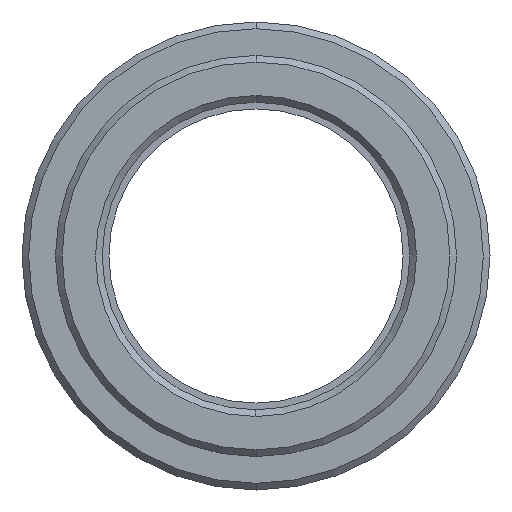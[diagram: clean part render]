
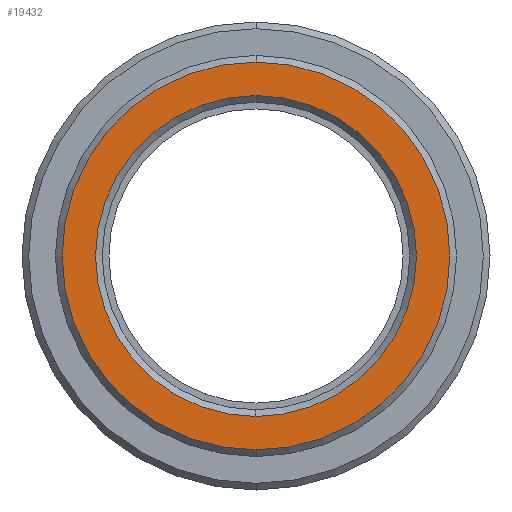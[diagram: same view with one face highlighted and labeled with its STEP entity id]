
A CAD part, left-side view. The second image highlights one B-rep face of the part: STEP entity #19432.
In plain terms, the highlighted planar face has unit normal (-1, 0, 0).
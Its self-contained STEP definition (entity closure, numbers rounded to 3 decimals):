
#7838=CARTESIAN_POINT('',(-8.,0.,0.));
#7839=DIRECTION('',(1.,0.,0.));
#7840=DIRECTION('',(0.,0.,1.));
#7841=AXIS2_PLACEMENT_3D('',#7838,#7839,#7840);
#7843=CARTESIAN_POINT('',(-8.,0.,0.));
#7844=DIRECTION('',(1.,0.,0.));
#7845=DIRECTION('',(0.,0.,-1.));
#7846=AXIS2_PLACEMENT_3D('',#7843,#7844,#7845);
#7848=CARTESIAN_POINT('',(-8.,0.,0.));
#7849=DIRECTION('',(1.,0.,0.));
#7850=DIRECTION('',(0.,0.,1.));
#7851=AXIS2_PLACEMENT_3D('',#7848,#7849,#7850);
#7853=CARTESIAN_POINT('',(-8.,0.,0.));
#7854=DIRECTION('',(1.,0.,0.));
#7855=DIRECTION('',(0.,0.,-1.));
#7856=AXIS2_PLACEMENT_3D('',#7853,#7854,#7855);
#16498=CARTESIAN_POINT('',(-8.,0.,12.));
#16499=CARTESIAN_POINT('',(-8.,0.,-12.));
#16500=VERTEX_POINT('',#16498);
#16501=VERTEX_POINT('',#16499);
#16506=CARTESIAN_POINT('',(-8.,0.,14.5));
#16507=CARTESIAN_POINT('',(-8.,0.,-14.5));
#16508=VERTEX_POINT('',#16506);
#16509=VERTEX_POINT('',#16507);
#19416=CARTESIAN_POINT('',(-8.,0.,0.));
#19417=DIRECTION('',(1.,0.,0.));
#19418=DIRECTION('',(0.,0.,1.));
#19419=AXIS2_PLACEMENT_3D('',#19416,#19417,#19418);
#19420=PLANE('',#19419);
#19422=ORIENTED_EDGE('',*,*,#19421,.T.);
#19424=ORIENTED_EDGE('',*,*,#19423,.T.);
#19425=EDGE_LOOP('',(#19422,#19424));
#19426=FACE_OUTER_BOUND('',#19425,.F.);
#19427=ORIENTED_EDGE('',*,*,#19406,.F.);
#19429=ORIENTED_EDGE('',*,*,#19428,.F.);
#19430=EDGE_LOOP('',(#19427,#19429));
#19431=FACE_BOUND('',#19430,.F.);
#19432=ADVANCED_FACE('',(#19426,#19431),#19420,.F.);
#7842=CIRCLE('',#7841,14.5);
#7847=CIRCLE('',#7846,14.5);
#7852=CIRCLE('',#7851,12.);
#7857=CIRCLE('',#7856,12.);
#19406=EDGE_CURVE('',#16500,#16501,#7852,.T.);
#19421=EDGE_CURVE('',#16508,#16509,#7842,.T.);
#19423=EDGE_CURVE('',#16509,#16508,#7847,.T.);
#19428=EDGE_CURVE('',#16501,#16500,#7857,.T.);
